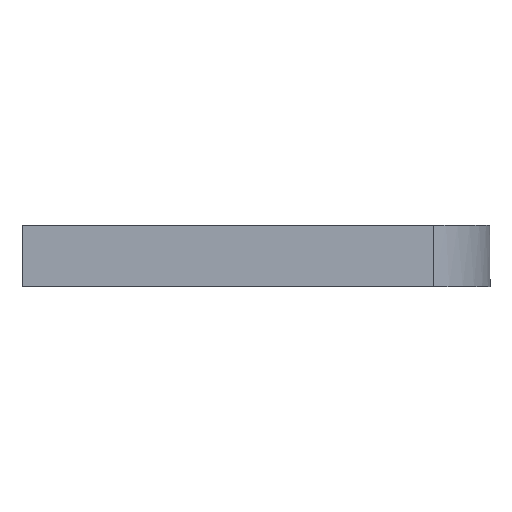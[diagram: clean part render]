
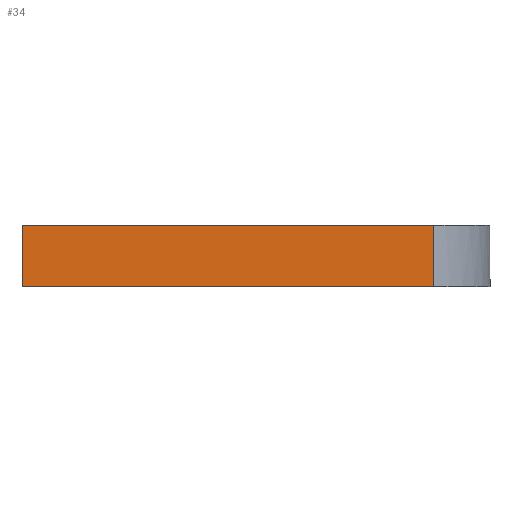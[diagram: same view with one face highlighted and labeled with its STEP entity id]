
A CAD part, left-side view. The second image highlights one B-rep face of the part: STEP entity #34.
In plain terms, the highlighted planar face has unit normal (-1, 0, 0).
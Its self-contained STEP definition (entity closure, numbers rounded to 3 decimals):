
#34=ADVANCED_FACE('',(#48),#501,.T.);
#48=FACE_OUTER_BOUND('',#62,.T.);
#62=EDGE_LOOP('',(#94,#95,#96,#97));
#94=ORIENTED_EDGE('',*,*,#415,.T.);
#95=ORIENTED_EDGE('',*,*,#416,.T.);
#96=ORIENTED_EDGE('',*,*,#417,.T.);
#97=ORIENTED_EDGE('',*,*,#413,.F.);
#163=PCURVE('',#500,#235);
#166=PCURVE('',#501,#238);
#167=PCURVE('',#501,#239);
#168=PCURVE('',#501,#240);
#169=PCURVE('',#501,#241);
#173=PCURVE('',#502,#245);
#187=PCURVE('',#503,#259);
#202=PCURVE('',#504,#274);
#235=DEFINITIONAL_REPRESENTATION('',(#315),#1002);
#238=DEFINITIONAL_REPRESENTATION('',(#320),#1002);
#239=DEFINITIONAL_REPRESENTATION('',(#322),#1002);
#240=DEFINITIONAL_REPRESENTATION('',(#324),#1002);
#241=DEFINITIONAL_REPRESENTATION('',(#325),#1002);
#245=DEFINITIONAL_REPRESENTATION('',(#331),#1002);
#259=DEFINITIONAL_REPRESENTATION('',(#345),#1002);
#274=DEFINITIONAL_REPRESENTATION('',(#352),#1002);
#314=B_SPLINE_CURVE_WITH_KNOTS('',1,(#755,#756),.UNSPECIFIED.,.F.,.F.,(2,
2),(0.,6.),.UNSPECIFIED.);
#315=B_SPLINE_CURVE_WITH_KNOTS('',1,(#757,#758),.UNSPECIFIED.,.F.,.F.,(2,
2),(0.,6.),.UNSPECIFIED.);
#319=B_SPLINE_CURVE_WITH_KNOTS('',1,(#765,#766),.UNSPECIFIED.,.F.,.F.,(2,
2),(224.295,756.79),.UNSPECIFIED.);
#320=B_SPLINE_CURVE_WITH_KNOTS('',1,(#767,#768),.UNSPECIFIED.,.F.,.F.,(2,
2),(224.295,756.79),.UNSPECIFIED.);
#321=B_SPLINE_CURVE_WITH_KNOTS('',1,(#769,#770),.UNSPECIFIED.,.F.,.F.,(2,
2),(0.,6.),.UNSPECIFIED.);
#322=B_SPLINE_CURVE_WITH_KNOTS('',1,(#771,#772),.UNSPECIFIED.,.F.,.F.,(2,
2),(0.,6.),.UNSPECIFIED.);
#323=B_SPLINE_CURVE_WITH_KNOTS('',1,(#773,#774),.UNSPECIFIED.,.F.,.F.,(2,
2),(-756.79,-224.295),.UNSPECIFIED.);
#324=B_SPLINE_CURVE_WITH_KNOTS('',1,(#775,#776),.UNSPECIFIED.,.F.,.F.,(2,
2),(-756.79,-224.295),.UNSPECIFIED.);
#325=B_SPLINE_CURVE_WITH_KNOTS('',1,(#777,#778),.UNSPECIFIED.,.F.,.F.,(2,
2),(0.,6.),.UNSPECIFIED.);
#331=B_SPLINE_CURVE_WITH_KNOTS('',1,(#789,#790),.UNSPECIFIED.,.F.,.F.,(2,
2),(0.,6.),.UNSPECIFIED.);
#345=B_SPLINE_CURVE_WITH_KNOTS('',1,(#859,#860),.UNSPECIFIED.,.F.,.F.,(2,
2),(224.295,756.79),.UNSPECIFIED.);
#352=B_SPLINE_CURVE_WITH_KNOTS('',1,(#928,#929),.UNSPECIFIED.,.F.,.F.,(2,
2),(-756.79,-224.295),.UNSPECIFIED.);
#377=SURFACE_CURVE('',#314,(#163,#169),.PCURVE_S1.);
#379=SURFACE_CURVE('',#319,(#166,#187),.PCURVE_S1.);
#380=SURFACE_CURVE('',#321,(#167,#173),.PCURVE_S1.);
#381=SURFACE_CURVE('',#323,(#168,#202),.PCURVE_S1.);
#413=EDGE_CURVE('',#482,#483,#377,.T.);
#415=EDGE_CURVE('',#482,#484,#379,.T.);
#416=EDGE_CURVE('',#484,#485,#380,.T.);
#417=EDGE_CURVE('',#485,#483,#381,.T.);
#482=VERTEX_POINT('',#685);
#483=VERTEX_POINT('',#686);
#484=VERTEX_POINT('',#687);
#485=VERTEX_POINT('',#688);
#500=PLANE('',#534);
#501=PLANE('',#535);
#502=PLANE('',#536);
#503=PLANE('',#537);
#504=PLANE('',#538);
#534=AXIS2_PLACEMENT_3D('',#564,#544,$);
#535=AXIS2_PLACEMENT_3D('',#565,#545,$);
#536=AXIS2_PLACEMENT_3D('',#566,#546,$);
#537=AXIS2_PLACEMENT_3D('',#621,#547,$);
#538=AXIS2_PLACEMENT_3D('',#622,#548,$);
#544=DIRECTION('',(0.,1.,0.));
#545=DIRECTION('',(-1.,0.,0.));
#546=DIRECTION('',(0.,-1.,0.));
#547=DIRECTION('',(0.,0.,-1.));
#548=DIRECTION('',(0.,0.,1.));
#564=CARTESIAN_POINT('',(735.,75.,-16.));
#565=CARTESIAN_POINT('',(683.,75.,-16.));
#566=CARTESIAN_POINT('',(683.,35.,-16.));
#621=CARTESIAN_POINT('',(676.5,23.812,-16.));
#622=CARTESIAN_POINT('',(676.5,23.812,-10.));
#685=CARTESIAN_POINT('',(683.,75.,-16.));
#686=CARTESIAN_POINT('',(683.,75.,-10.));
#687=CARTESIAN_POINT('',(683.,35.,-16.));
#688=CARTESIAN_POINT('',(683.,35.,-10.));
#755=CARTESIAN_POINT('',(683.,75.,-16.));
#756=CARTESIAN_POINT('',(683.,75.,-10.));
#757=CARTESIAN_POINT('',(224.295,0.));
#758=CARTESIAN_POINT('',(224.295,6.));
#765=CARTESIAN_POINT('',(683.,75.,-16.));
#766=CARTESIAN_POINT('',(683.,35.,-16.));
#767=CARTESIAN_POINT('',(224.295,0.));
#768=CARTESIAN_POINT('',(756.79,0.));
#769=CARTESIAN_POINT('',(683.,35.,-16.));
#770=CARTESIAN_POINT('',(683.,35.,-10.));
#771=CARTESIAN_POINT('',(756.79,0.));
#772=CARTESIAN_POINT('',(756.79,6.));
#773=CARTESIAN_POINT('',(683.,35.,-10.));
#774=CARTESIAN_POINT('',(683.,75.,-10.));
#775=CARTESIAN_POINT('',(756.79,6.));
#776=CARTESIAN_POINT('',(224.295,6.));
#777=CARTESIAN_POINT('',(224.295,0.));
#778=CARTESIAN_POINT('',(224.295,6.));
#789=CARTESIAN_POINT('',(756.79,0.));
#790=CARTESIAN_POINT('',(756.79,6.));
#859=CARTESIAN_POINT('',(10.,-43.5));
#860=CARTESIAN_POINT('',(-30.,-43.5));
#928=CARTESIAN_POINT('',(-43.5,-30.));
#929=CARTESIAN_POINT('',(-43.5,10.));
#1002=(
GEOMETRIC_REPRESENTATION_CONTEXT(2)
PARAMETRIC_REPRESENTATION_CONTEXT()
REPRESENTATION_CONTEXT('pspace','')
);
